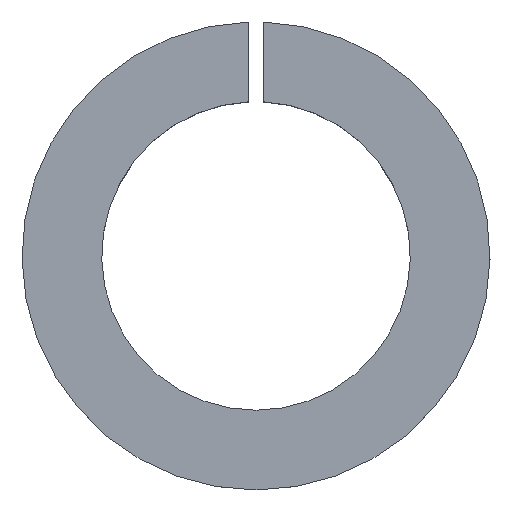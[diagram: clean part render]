
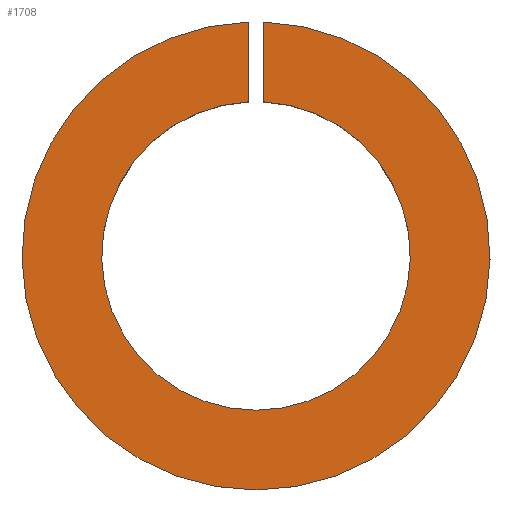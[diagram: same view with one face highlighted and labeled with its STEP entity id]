
A CAD part, top view. The second image highlights one B-rep face of the part: STEP entity #1708.
In plain terms, the highlighted planar face has unit normal (0, 0, 1).
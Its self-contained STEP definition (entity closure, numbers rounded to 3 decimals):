
#83=PLANE('',#1823);
#313=FACE_OUTER_BOUND('',#411,.T.);
#411=EDGE_LOOP('',(#1598,#1599,#1600,#1601));
#518=LINE('',#3620,#628);
#523=LINE('',#3630,#633);
#628=VECTOR('',#2126,16.637);
#633=VECTOR('',#2135,16.637);
#634=CIRCLE('',#1726,32.5);
#662=CIRCLE('',#1824,49.3);
#664=VERTEX_POINT('',#2148);
#665=VERTEX_POINT('',#2149);
#832=VERTEX_POINT('',#3619);
#835=VERTEX_POINT('',#3628);
#836=EDGE_CURVE('',#664,#665,#634,.T.);
#1086=EDGE_CURVE('',#832,#665,#518,.T.);
#1091=EDGE_CURVE('',#835,#664,#523,.T.);
#1092=EDGE_CURVE('',#835,#832,#662,.T.);
#1598=ORIENTED_EDGE('',*,*,#1086,.T.);
#1599=ORIENTED_EDGE('',*,*,#836,.F.);
#1600=ORIENTED_EDGE('',*,*,#1091,.F.);
#1601=ORIENTED_EDGE('',*,*,#1092,.T.);
#1708=ADVANCED_FACE('',(#313),#83,.T.);
#1726=AXIS2_PLACEMENT_3D('',#2150,#1832,#1833);
#1823=AXIS2_PLACEMENT_3D('',#3631,#2136,#2137);
#1824=AXIS2_PLACEMENT_3D('',#3632,#2138,#2139);
#1832=DIRECTION('center_axis',(0.,0.,1.));
#1833=DIRECTION('ref_axis',(-0.046,0.999,0.));
#2126=DIRECTION('',(0.,-1.,0.));
#2135=DIRECTION('',(0.,-1.,0.));
#2136=DIRECTION('center_axis',(0.,0.,1.));
#2137=DIRECTION('ref_axis',(1.,0.,0.));
#2138=DIRECTION('center_axis',(0.,0.,1.));
#2139=DIRECTION('ref_axis',(-0.03,1.,0.));
#2148=CARTESIAN_POINT('',(-0.577,35.512,23.263));
#2149=CARTESIAN_POINT('',(2.423,35.512,23.263));
#2150=CARTESIAN_POINT('Origin',(0.923,3.047,23.263));
#3619=CARTESIAN_POINT('',(2.423,52.324,23.263));
#3620=CARTESIAN_POINT('',(2.423,52.324,23.263));
#3628=CARTESIAN_POINT('',(-0.577,52.324,23.263));
#3630=CARTESIAN_POINT('',(-0.577,52.324,23.263));
#3631=CARTESIAN_POINT('Origin',(-48.286,-47.328,23.263));
#3632=CARTESIAN_POINT('Origin',(0.923,3.047,23.263));
